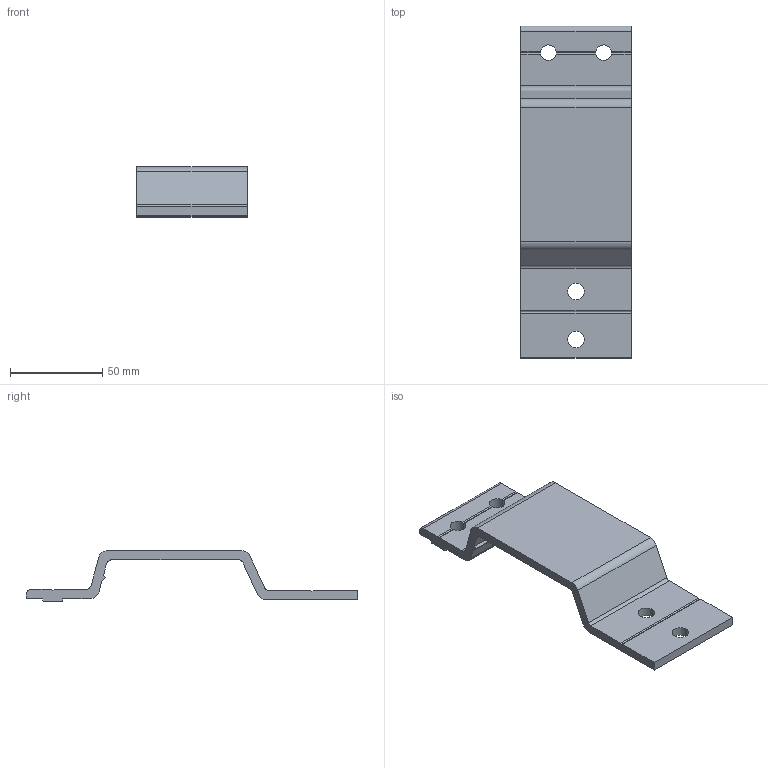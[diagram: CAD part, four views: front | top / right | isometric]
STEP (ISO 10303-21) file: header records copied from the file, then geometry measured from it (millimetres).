
FILE_DESCRIPTION (( 'STEP AP214' ), '1' );
FILE_NAME ('FAVBS 60S.step', '2017-04-05T08:00:30', ( '' ), ( '' ), 'SwSTEP 2.0', 'SolidWorks 2015', '' );
FILE_SCHEMA (( 'AUTOMOTIVE_DESIGN' ));
Length unit declared in the file: millimetre
Products named in the file (1): FAVBS 60S
Bounding box: 60 x 180 x 27.5 mm (x, y, z)
Volume: 62165.4 mm3; surface area: 27886.7 mm2
Topology: 1 solids, 1 shells, 50 faces, 146 edges, 96 vertices
Faces by surface type: plane 31, cylinder 19
Entity records: 1706 total; most frequent: CARTESIAN_POINT 317, ORIENTED_EDGE 292, DIRECTION 278, EDGE_CURVE 146, LINE 100, VECTOR 100, VERTEX_POINT 96, AXIS2_PLACEMENT_3D 89
